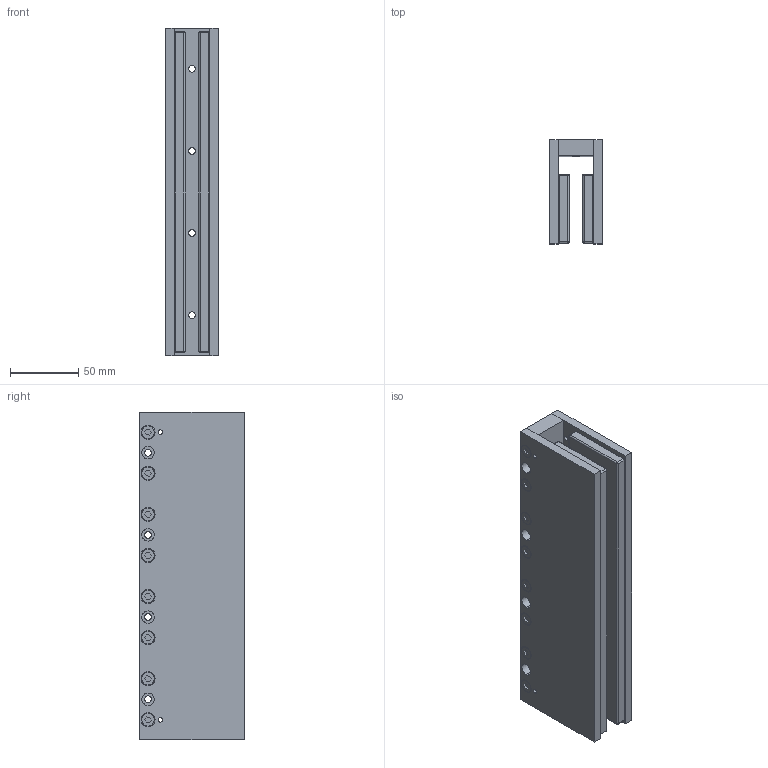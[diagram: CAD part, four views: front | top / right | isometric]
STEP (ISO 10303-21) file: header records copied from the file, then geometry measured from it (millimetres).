
FILE_DESCRIPTION (( 'STEP AP214' ), '1' );
FILE_NAME ('DX50F-TL240.step', '2021-01-04T09:38:35', ( '' ), ( '' ), 'SwSTEP 2.0', 'SolidWorks 2020', '' );
FILE_SCHEMA (( 'AUTOMOTIVE_DESIGN' ));
Length unit declared in the file: millimetre
Products named in the file (1): DX50F-TL240
Bounding box: 38.7 x 76.2 x 239.5 mm (x, y, z)
Volume: 487179.7 mm3; surface area: 110458.2 mm2
Topology: 1 solids, 9 shells, 498 faces, 1082 edges, 668 vertices
Faces by surface type: plane 226, cylinder 224, torus 32, sphere 16
Entity records: 19026 total; most frequent: DIRECTION 2528, CARTESIAN_POINT 2281, ORIENTED_EDGE 2132, EDGE_CURVE 1066, AXIS2_PLACEMENT_3D 979, VERTEX_POINT 668, EDGE_LOOP 612, LINE 570
